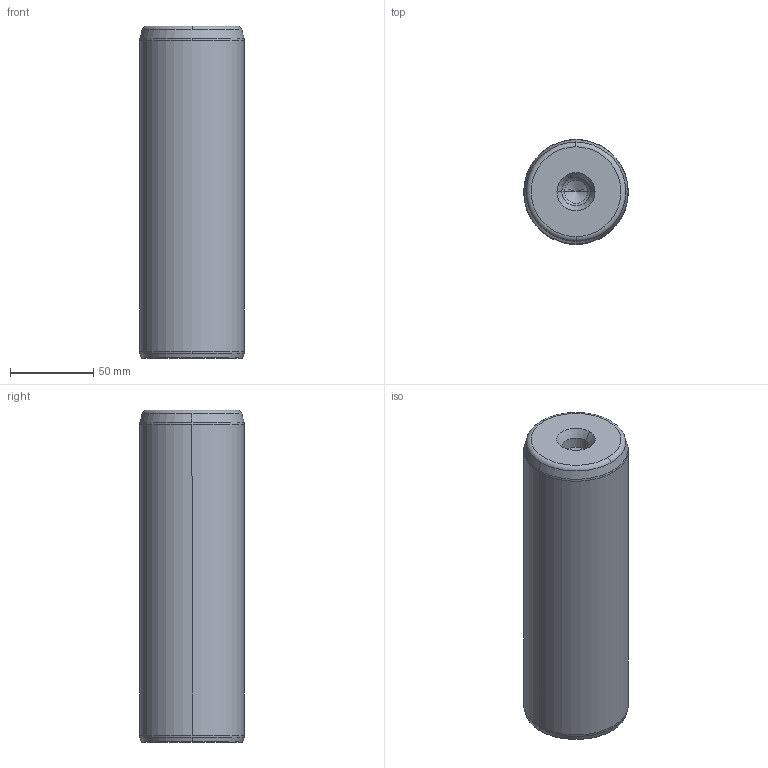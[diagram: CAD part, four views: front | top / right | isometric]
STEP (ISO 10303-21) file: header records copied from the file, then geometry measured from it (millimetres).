
FILE_DESCRIPTION((''),'2;1');
FILE_NAME('P10_063_200.stp','2008-12-23T16:16:02',(''),(''),'Mechanical Desktop 2009','Mechanical Desktop 2009',', , ');
FILE_SCHEMA(('CONFIG_CONTROL_DESIGN'));
Length unit declared in the file: millimetre
Products named in the file (5): Product; ProductAA; blmdl1; ProductA; blmdl1A
Assembly tree (2 placements, depth 3):
  Product
    ProductAA
      blmdl1
  ProductA
  blmdl1A
Bounding box: 63 x 63 x 200 mm (x, y, z)
Volume: 612745.2 mm3; surface area: 47087.5 mm2
Topology: 1 solids, 1 shells, 26 faces, 66 edges, 41 vertices
Faces by surface type: cone 10, torus 8, cylinder 6, plane 2
Entity records: 1012 total; most frequent: DIRECTION 170, CARTESIAN_POINT 134, ORIENTED_EDGE 128, AXIS2_PLACEMENT_3D 77, EDGE_CURVE 64, CIRCLE 48, VERTEX_POINT 41, EDGE_LOOP 27
